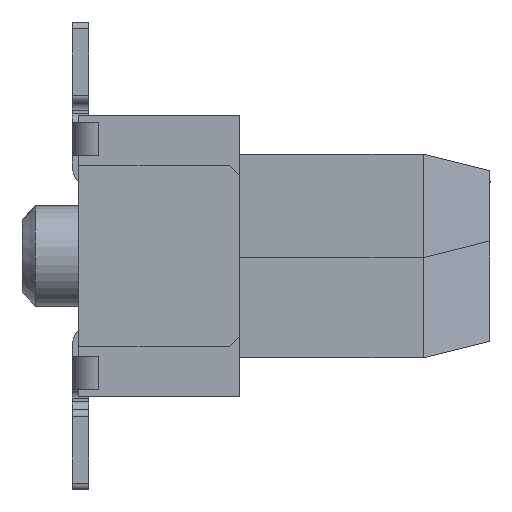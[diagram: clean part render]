
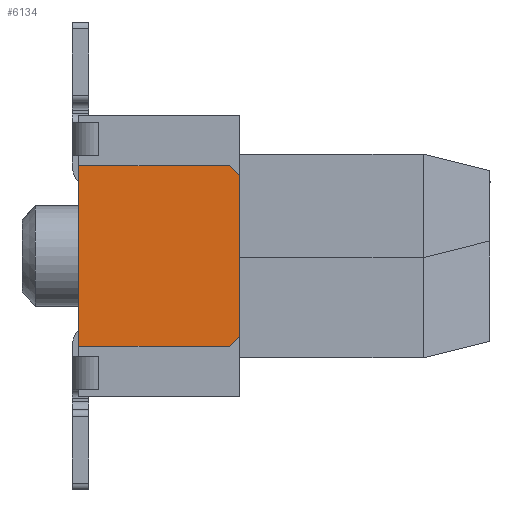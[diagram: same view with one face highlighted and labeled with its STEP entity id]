
A CAD part, left-side view. The second image highlights one B-rep face of the part: STEP entity #6134.
In plain terms, the highlighted planar face has unit normal (-1, 0, 0).
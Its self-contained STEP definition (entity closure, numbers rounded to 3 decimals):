
#5007 = VERTEX_POINT ( 'NONE', #22891 ) ;
#5046 = VERTEX_POINT ( 'NONE', #22914 ) ;
#5270 = VERTEX_POINT ( 'NONE', #23295 ) ;
#5272 = VERTEX_POINT ( 'NONE', #23299 ) ;
#5273 = VERTEX_POINT ( 'NONE', #23301 ) ;
#6134 = ADVANCED_FACE ( 'NONE', ( #24757 ), #24746, .T. ) ;
#6271 = EDGE_LOOP ( 'NONE', ( #32808, #32804, #32800, #32796, #32792, #32788 ) ) ;
#9119 = EDGE_CURVE ( 'NONE', #28950, #5007, #10405, .T. ) ;
#10405 = LINE ( 'NONE', #10407, #20063 ) ;
#10407 = CARTESIAN_POINT ( 'NONE',  ( 10.9, -7.61, -0.175 ) ) ;
#10425 = DIRECTION ( 'NONE',  ( 0., 1., 0. ) ) ;
#11262 = EDGE_CURVE ( 'NONE', #5007, #5046, #38644, .T. ) ;
#12763 = VECTOR ( 'NONE', #38669, 1000. ) ;
#15053 = VECTOR ( 'NONE', #29385, 1000. ) ;
#15054 = VECTOR ( 'NONE', #29382, 1000. ) ;
#15055 = VECTOR ( 'NONE', #29379, 1000. ) ;
#15057 = VECTOR ( 'NONE', #29376, 1000. ) ;
#20063 = VECTOR ( 'NONE', #10425, 1000. ) ;
#21495 = AXIS2_PLACEMENT_3D ( 'NONE', #24750, #24761, #24763 ) ;
#22891 = CARTESIAN_POINT ( 'NONE',  ( 10.9, -5.11, -0.175 ) ) ;
#22914 = CARTESIAN_POINT ( 'NONE',  ( 10.9, -5.11, -2.875 ) ) ;
#23295 = CARTESIAN_POINT ( 'NONE',  ( 10.9, -7.51, -2.725 ) ) ;
#23299 = CARTESIAN_POINT ( 'NONE',  ( 10.9, -7.36, -2.875 ) ) ;
#23301 = CARTESIAN_POINT ( 'NONE',  ( 10.9, -7.51, -0.325 ) ) ;
#24214 = CARTESIAN_POINT ( 'NONE',  ( 10.9, -7.36, -0.175 ) ) ;
#24746 = PLANE ( 'NONE',  #21495 ) ;
#24750 = CARTESIAN_POINT ( 'NONE',  ( 10.9, -7.61, 0.575 ) ) ;
#24757 = FACE_OUTER_BOUND ( 'NONE', #6271, .T. ) ;
#24761 = DIRECTION ( 'NONE',  ( -1., 0., 0. ) ) ;
#24763 = DIRECTION ( 'NONE',  ( 0., 0., 1. ) ) ;
#25278 = EDGE_CURVE ( 'NONE', #5046, #5272, #29367, .T. ) ;
#25280 = EDGE_CURVE ( 'NONE', #5272, #5270, #29377, .T. ) ;
#25283 = EDGE_CURVE ( 'NONE', #5270, #5273, #29380, .T. ) ;
#25285 = EDGE_CURVE ( 'NONE', #5273, #28950, #29383, .T. ) ;
#28950 = VERTEX_POINT ( 'NONE', #24214 ) ;
#29367 = LINE ( 'NONE', #29368, #15057 ) ;
#29368 = CARTESIAN_POINT ( 'NONE',  ( 10.9, -4.26, -2.875 ) ) ;
#29376 = DIRECTION ( 'NONE',  ( 0., -1., 0. ) ) ;
#29377 = LINE ( 'NONE', #29378, #15055 ) ;
#29378 = CARTESIAN_POINT ( 'NONE',  ( 10.9, -7.36, -2.875 ) ) ;
#29379 = DIRECTION ( 'NONE',  ( 0., -0.707, 0.707 ) ) ;
#29380 = LINE ( 'NONE', #29381, #15054 ) ;
#29381 = CARTESIAN_POINT ( 'NONE',  ( 10.9, -7.51, -3.625 ) ) ;
#29382 = DIRECTION ( 'NONE',  ( 0., 0., 1. ) ) ;
#29383 = LINE ( 'NONE', #29384, #15053 ) ;
#29384 = CARTESIAN_POINT ( 'NONE',  ( 10.9, -7.36, -0.175 ) ) ;
#29385 = DIRECTION ( 'NONE',  ( 0., 0.707, 0.707 ) ) ;
#32788 = ORIENTED_EDGE ( 'NONE', *, *, #11262, .T. ) ;
#32792 = ORIENTED_EDGE ( 'NONE', *, *, #9119, .T. ) ;
#32796 = ORIENTED_EDGE ( 'NONE', *, *, #25285, .T. ) ;
#32800 = ORIENTED_EDGE ( 'NONE', *, *, #25283, .T. ) ;
#32804 = ORIENTED_EDGE ( 'NONE', *, *, #25280, .T. ) ;
#32808 = ORIENTED_EDGE ( 'NONE', *, *, #25278, .T. ) ;
#38644 = LINE ( 'NONE', #38666, #12763 ) ;
#38666 = CARTESIAN_POINT ( 'NONE',  ( 10.9, -5.11, 0.575 ) ) ;
#38669 = DIRECTION ( 'NONE',  ( 0., 0., -1. ) ) ;
